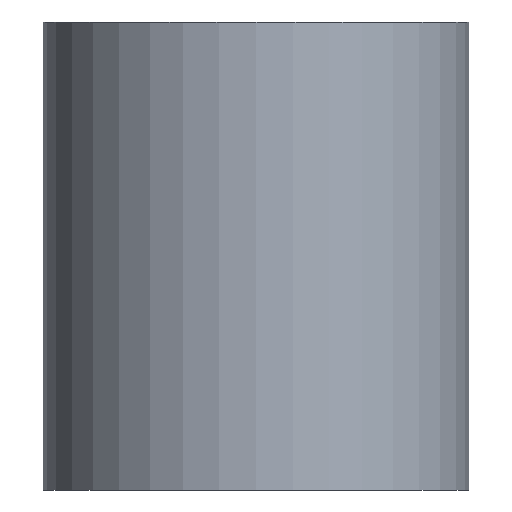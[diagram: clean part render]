
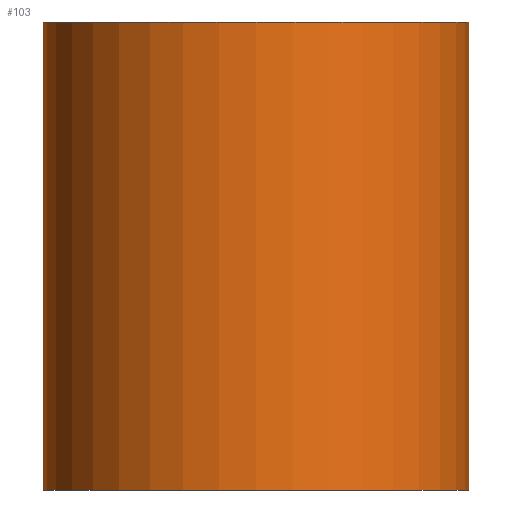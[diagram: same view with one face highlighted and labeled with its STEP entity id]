
A CAD part, left-side view. The second image highlights one B-rep face of the part: STEP entity #103.
In plain terms, the highlighted cylindrical face has radius 10 mm (diameter 20 mm), a partial arc.
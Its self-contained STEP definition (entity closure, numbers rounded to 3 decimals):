
#103=ADVANCED_FACE('',(#113),#109,.T.);
#109=CYLINDRICAL_SURFACE('',#188,10.);
#113=FACE_OUTER_BOUND('',#117,.T.);
#117=EDGE_LOOP('',(#133,#134,#135,#136));
#125=CIRCLE('',#186,10.);
#126=CIRCLE('',#187,10.);
#133=ORIENTED_EDGE('',*,*,#165,.T.);
#134=ORIENTED_EDGE('',*,*,#166,.F.);
#135=ORIENTED_EDGE('',*,*,#167,.F.);
#136=ORIENTED_EDGE('',*,*,#168,.T.);
#157=VERTEX_POINT('',#236);
#158=VERTEX_POINT('',#237);
#159=VERTEX_POINT('',#239);
#160=VERTEX_POINT('',#241);
#165=EDGE_CURVE('',#157,#158,#177,.T.);
#166=EDGE_CURVE('',#159,#158,#125,.T.);
#167=EDGE_CURVE('',#160,#159,#178,.T.);
#168=EDGE_CURVE('',#160,#157,#126,.T.);
#177=LINE('',#235,#181);
#178=LINE('',#240,#182);
#181=VECTOR('',#202,1.);
#182=VECTOR('',#205,1.);
#186=AXIS2_PLACEMENT_3D('',#238,#203,#204);
#187=AXIS2_PLACEMENT_3D('',#242,#206,#207);
#188=AXIS2_PLACEMENT_3D('',#243,#208,#209);
#202=DIRECTION('',(0.,0.,1.));
#203=DIRECTION('',(0.,0.,1.));
#204=DIRECTION('',(1.,0.,0.));
#205=DIRECTION('',(0.,0.,1.));
#206=DIRECTION('',(0.,0.,1.));
#207=DIRECTION('',(1.,0.,0.));
#208=DIRECTION('',(0.,0.,1.));
#209=DIRECTION('',(-1.,0.,0.));
#235=CARTESIAN_POINT('',(0.,-10.,0.));
#236=CARTESIAN_POINT('',(0.,-10.,0.));
#237=CARTESIAN_POINT('',(0.,-10.,22.));
#238=CARTESIAN_POINT('',(0.,0.,22.));
#239=CARTESIAN_POINT('',(0.,10.,22.));
#240=CARTESIAN_POINT('',(0.,10.,0.));
#241=CARTESIAN_POINT('',(0.,10.,0.));
#242=CARTESIAN_POINT('',(0.,0.,0.));
#243=CARTESIAN_POINT('',(0.,0.,0.));
